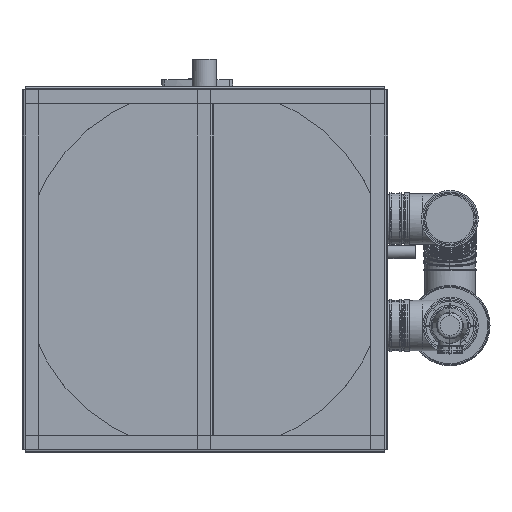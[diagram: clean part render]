
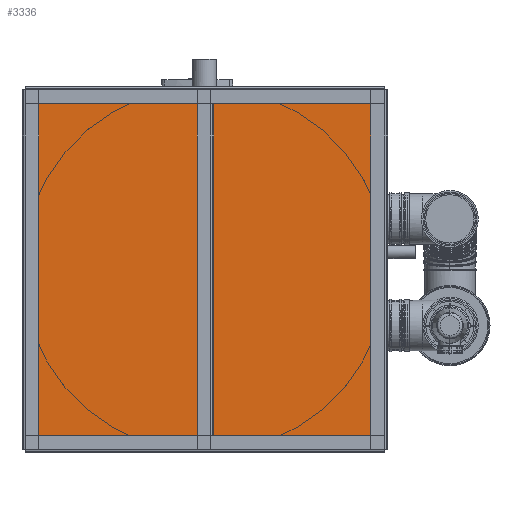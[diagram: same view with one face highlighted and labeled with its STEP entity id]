
A CAD part, front view. The second image highlights one B-rep face of the part: STEP entity #3336.
In plain terms, the highlighted planar face has unit normal (0, -1, 0).
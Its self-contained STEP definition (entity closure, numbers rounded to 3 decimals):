
#130 = EDGE_CURVE ( 'NONE', #42760, #11846, #7243, .T. ) ;
#2443 = DIRECTION ( 'NONE',  ( 0., 0., 1. ) ) ;
#3336 = ADVANCED_FACE ( 'NONE', ( #40585 ), #21203, .T. ) ;
#5012 = AXIS2_PLACEMENT_3D ( 'NONE', #10548, #26458, #62695 ) ;
#5138 = DIRECTION ( 'NONE',  ( -1., 0., 0. ) ) ;
#6276 = ORIENTED_EDGE ( 'NONE', *, *, #30382, .F. ) ;
#7013 = CARTESIAN_POINT ( 'NONE',  ( -354., -3., -354. ) ) ;
#7243 = LINE ( 'NONE', #9513, #33213 ) ;
#7592 = VERTEX_POINT ( 'NONE', #63860 ) ;
#9513 = CARTESIAN_POINT ( 'NONE',  ( 354., -3., -354. ) ) ;
#9978 = DIRECTION ( 'NONE',  ( 1., 0., 0. ) ) ;
#10548 = CARTESIAN_POINT ( 'NONE',  ( 0., -3., 0. ) ) ;
#11846 = VERTEX_POINT ( 'NONE', #22840 ) ;
#13971 = ORIENTED_EDGE ( 'NONE', *, *, #130, .F. ) ;
#14409 = VERTEX_POINT ( 'NONE', #63676 ) ;
#15584 = CARTESIAN_POINT ( 'NONE',  ( 354., -3., -354. ) ) ;
#18596 = VECTOR ( 'NONE', #2443, 1000. ) ;
#21203 = PLANE ( 'NONE',  #5012 ) ;
#22234 = CARTESIAN_POINT ( 'NONE',  ( 354., -3., 354. ) ) ;
#22840 = CARTESIAN_POINT ( 'NONE',  ( 354., -3., -354. ) ) ;
#24095 = VECTOR ( 'NONE', #5138, 1000. ) ;
#25937 = VECTOR ( 'NONE', #9978, 1000. ) ;
#26002 = ORIENTED_EDGE ( 'NONE', *, *, #46742, .F. ) ;
#26073 = DIRECTION ( 'NONE',  ( 0., 0., -1. ) ) ;
#26458 = DIRECTION ( 'NONE',  ( 0., -1., 0. ) ) ;
#28961 = LINE ( 'NONE', #15584, #24095 ) ;
#30382 = EDGE_CURVE ( 'NONE', #14409, #7592, #46183, .T. ) ;
#33213 = VECTOR ( 'NONE', #26073, 1000. ) ;
#40585 = FACE_OUTER_BOUND ( 'NONE', #51675, .T. ) ;
#40652 = EDGE_CURVE ( 'NONE', #7592, #42760, #67315, .T. ) ;
#42760 = VERTEX_POINT ( 'NONE', #22234 ) ;
#46183 = LINE ( 'NONE', #7013, #18596 ) ;
#46742 = EDGE_CURVE ( 'NONE', #11846, #14409, #28961, .T. ) ;
#47141 = CARTESIAN_POINT ( 'NONE',  ( 354., -3., 354. ) ) ;
#51675 = EDGE_LOOP ( 'NONE', ( #6276, #26002, #13971, #65898 ) ) ;
#62695 = DIRECTION ( 'NONE',  ( 0., 0., -1. ) ) ;
#63676 = CARTESIAN_POINT ( 'NONE',  ( -354., -3., -354. ) ) ;
#63860 = CARTESIAN_POINT ( 'NONE',  ( -354., -3., 354. ) ) ;
#65898 = ORIENTED_EDGE ( 'NONE', *, *, #40652, .F. ) ;
#67315 = LINE ( 'NONE', #47141, #25937 ) ;
